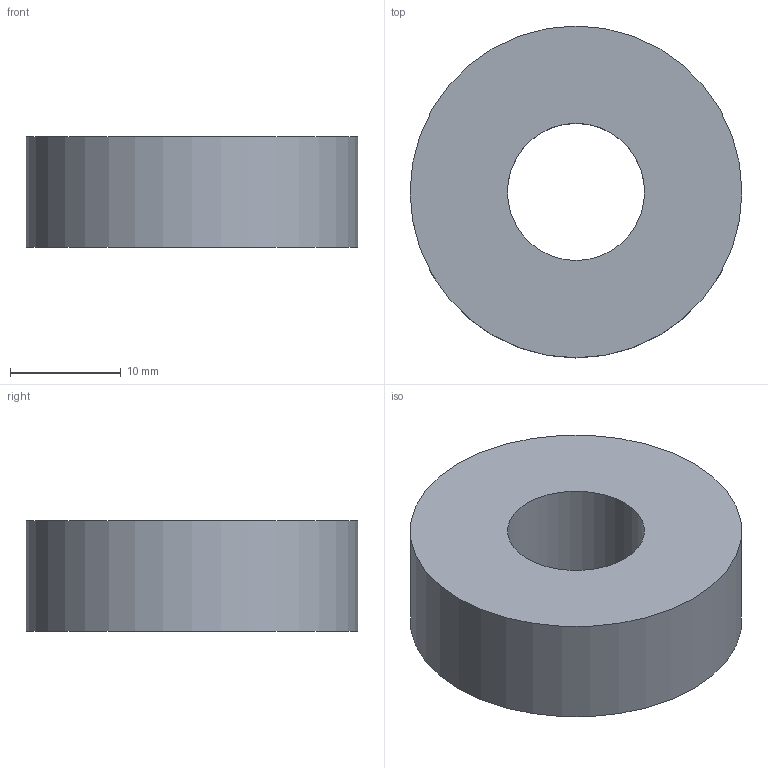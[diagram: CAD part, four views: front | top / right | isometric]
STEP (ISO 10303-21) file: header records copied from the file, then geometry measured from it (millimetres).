
FILE_DESCRIPTION(('Open CASCADE Model'),'2;1');
FILE_NAME('Open CASCADE Shape Model','2026-10-04T01:02:29',('Author'),( 'Open CASCADE'),'Open CASCADE STEP processor 8.0','Open CASCADE 8.0' ,'Unknown');
FILE_SCHEMA(('AUTOMOTIVE_DESIGN { 1 0 10303 214 1 1 1 1 }'));
Length unit declared in the file: millimetre
Products named in the file (1): Open CASCADE STEP translator 8.0 184
Bounding box: 30 x 30 x 10 mm (x, y, z)
Volume: 5861 mm3; surface area: 2504.2 mm2
Topology: 1 solids, 1 shells, 4 faces, 6 edges, 4 vertices
Faces by surface type: cylinder 2, plane 2
Full cylindrical faces by diameter (mm): 12.4 x1, 30 x1
Entity records: 186 total; most frequent: DIRECTION 32, CARTESIAN_POINT 27, ORIENTED_EDGE 12, PCURVE 12, DEFINITIONAL_REPRESENTATION 12, LINE 10, VECTOR 10, AXIS2_PLACEMENT_3D 9
